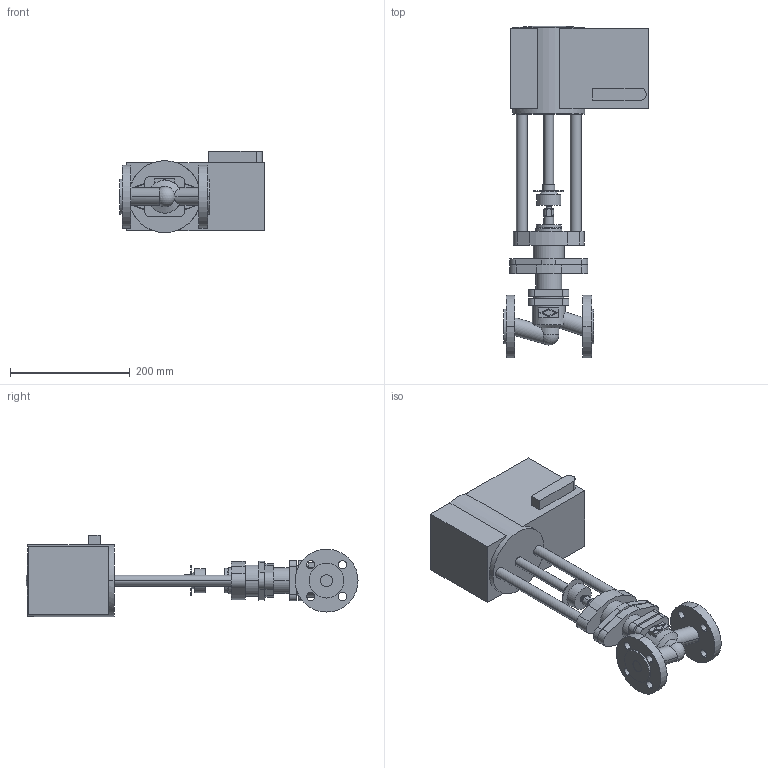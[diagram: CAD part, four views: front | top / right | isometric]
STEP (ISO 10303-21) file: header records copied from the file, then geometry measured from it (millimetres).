
FILE_DESCRIPTION(('Creo Elements/Direct Modeling STEP Export'),'2;1');
FILE_NAME('c000005069.stp','2013-06-04T 9:47:23',(''),(''),'Creo Elements/Direct Modeling STEP processor for AP203 (Solid Model)','Creo Elements/Direct Modeling 17.0D 15-Jul-2011 (C) Parametric Technology GmbH','');
FILE_SCHEMA(('CONFIG_CONTROL_DESIGN'));
Length unit declared in the file: millimetre
Products named in the file (5): 1; AnbauteileVentil; FR1.2
Assembly tree (2 placements, depth 2):
  1
  AnbauteileVentil
    AnbauteileVentil
  FR1.2
    FR1.2
Bounding box: 241 x 554.5 x 135.5 mm (x, y, z)
Volume: 4808875.6 mm3; surface area: 332892.2 mm2
Topology: 3 solids, 4 shells, 229 faces, 545 edges, 346 vertices
Faces by surface type: cylinder 100, plane 84, cone 26, torus 16, sphere 3
Entity records: 8019 total; most frequent: CARTESIAN_POINT 2432, ORIENTED_EDGE 1078, DIRECTION 1020, EDGE_CURVE 539, AXIS2_PLACEMENT_3D 387, VERTEX_POINT 346, EDGE_LOOP 275, VECTOR 246
